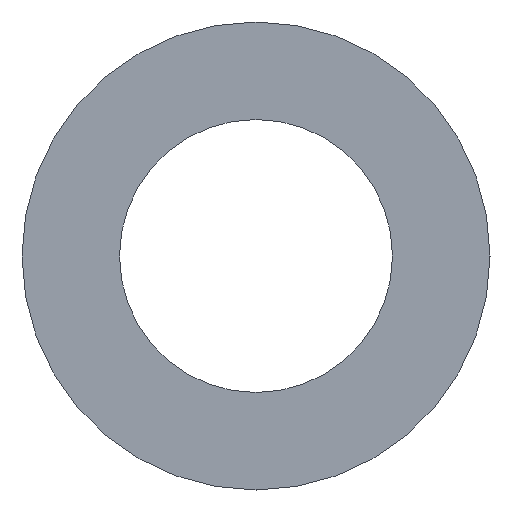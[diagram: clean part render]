
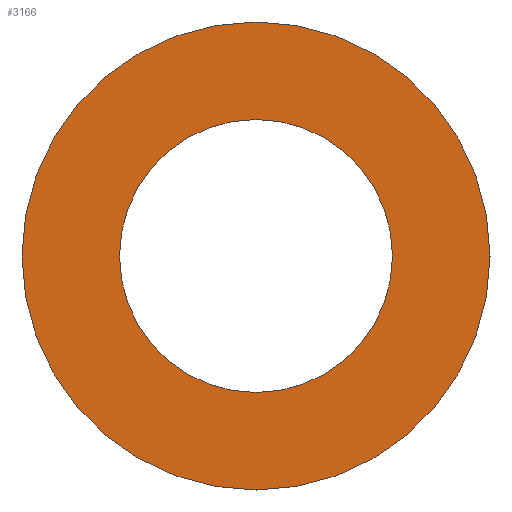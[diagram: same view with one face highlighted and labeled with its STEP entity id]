
A CAD part, front view. The second image highlights one B-rep face of the part: STEP entity #3166.
In plain terms, the highlighted planar face has unit normal (0, -1, 0).
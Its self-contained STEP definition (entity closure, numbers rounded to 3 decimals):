
#57 = DIRECTION ( 'NONE',  ( 0., 0., -1. ) ) ;
#59 = EDGE_LOOP ( 'NONE', ( #2619, #3490 ) ) ;
#99 = CIRCLE ( 'NONE', #2460, 17.5 ) ;
#140 = DIRECTION ( 'NONE',  ( 0., -1., 0. ) ) ;
#193 = EDGE_LOOP ( 'NONE', ( #3695, #666 ) ) ;
#233 = CIRCLE ( 'NONE', #844, 30. ) ;
#236 = CIRCLE ( 'NONE', #2406, 30. ) ;
#308 = DIRECTION ( 'NONE',  ( 0., -1., 0. ) ) ;
#666 = ORIENTED_EDGE ( 'NONE', *, *, #3042, .T. ) ;
#710 = DIRECTION ( 'NONE',  ( 0., -1., 0. ) ) ;
#807 = DIRECTION ( 'NONE',  ( 0., -1., 0. ) ) ;
#844 = AXIS2_PLACEMENT_3D ( 'NONE', #1645, #140, #1303 ) ;
#866 = VERTEX_POINT ( 'NONE', #1194 ) ;
#870 = EDGE_CURVE ( 'NONE', #2262, #866, #2639, .T. ) ;
#1104 = CARTESIAN_POINT ( 'NONE',  ( 0., -15.5, 17.5 ) ) ;
#1161 = CARTESIAN_POINT ( 'NONE',  ( 0., -15.5, -30. ) ) ;
#1194 = CARTESIAN_POINT ( 'NONE',  ( 0., -15.5, -17.5 ) ) ;
#1303 = DIRECTION ( 'NONE',  ( 0., 0., -1. ) ) ;
#1322 = FACE_OUTER_BOUND ( 'NONE', #193, .T. ) ;
#1389 = CARTESIAN_POINT ( 'NONE',  ( 0., -15.5, 17.5 ) ) ;
#1393 = DIRECTION ( 'NONE',  ( 0., 1., 0. ) ) ;
#1616 = DIRECTION ( 'NONE',  ( 0., 0., -1. ) ) ;
#1645 = CARTESIAN_POINT ( 'NONE',  ( 0., -15.5, 0. ) ) ;
#2039 = CARTESIAN_POINT ( 'NONE',  ( 0., -15.5, 0. ) ) ;
#2160 = CARTESIAN_POINT ( 'NONE',  ( 0., -15.5, 30. ) ) ;
#2246 = PLANE ( 'NONE',  #3447 ) ;
#2262 = VERTEX_POINT ( 'NONE', #1389 ) ;
#2406 = AXIS2_PLACEMENT_3D ( 'NONE', #2482, #710, #1616 ) ;
#2460 = AXIS2_PLACEMENT_3D ( 'NONE', #3384, #807, #3396 ) ;
#2482 = CARTESIAN_POINT ( 'NONE',  ( 0., -15.5, 0. ) ) ;
#2566 = EDGE_CURVE ( 'NONE', #3273, #3453, #236, .T. ) ;
#2619 = ORIENTED_EDGE ( 'NONE', *, *, #3127, .F. ) ;
#2639 = CIRCLE ( 'NONE', #3185, 17.5 ) ;
#3042 = EDGE_CURVE ( 'NONE', #3453, #3273, #233, .T. ) ;
#3127 = EDGE_CURVE ( 'NONE', #866, #2262, #99, .T. ) ;
#3166 = ADVANCED_FACE ( 'NONE', ( #3595, #1322 ), #2246, .F. ) ;
#3185 = AXIS2_PLACEMENT_3D ( 'NONE', #2039, #308, #57 ) ;
#3273 = VERTEX_POINT ( 'NONE', #1161 ) ;
#3384 = CARTESIAN_POINT ( 'NONE',  ( 0., -15.5, 0. ) ) ;
#3396 = DIRECTION ( 'NONE',  ( 0., 0., -1. ) ) ;
#3447 = AXIS2_PLACEMENT_3D ( 'NONE', #1104, #1393, #3667 ) ;
#3453 = VERTEX_POINT ( 'NONE', #2160 ) ;
#3490 = ORIENTED_EDGE ( 'NONE', *, *, #870, .F. ) ;
#3595 = FACE_BOUND ( 'NONE', #59, .T. ) ;
#3667 = DIRECTION ( 'NONE',  ( 0., 0., 1. ) ) ;
#3695 = ORIENTED_EDGE ( 'NONE', *, *, #2566, .T. ) ;
